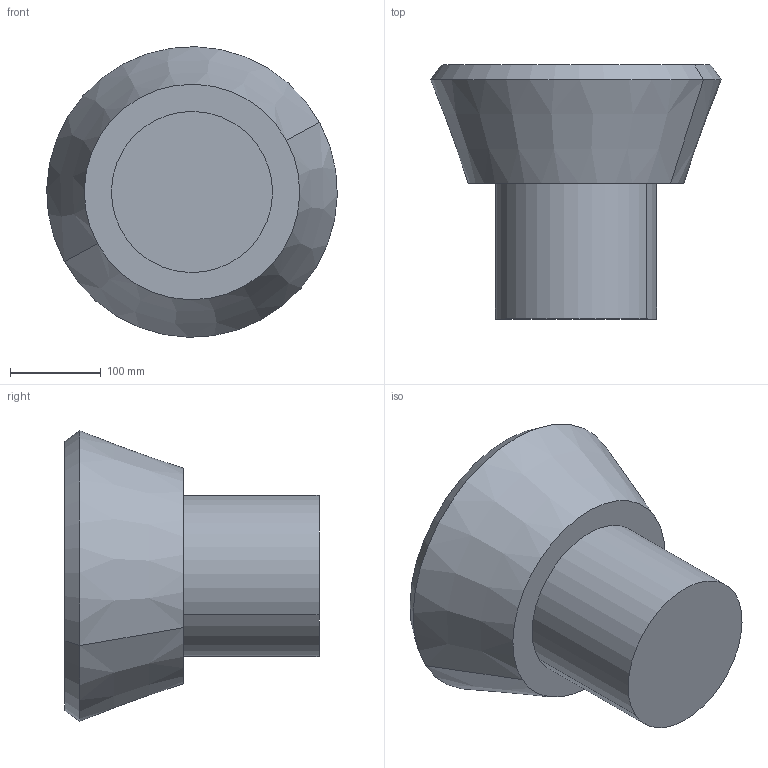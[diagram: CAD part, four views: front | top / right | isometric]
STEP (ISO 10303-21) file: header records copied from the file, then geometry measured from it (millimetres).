
FILE_DESCRIPTION(('CATIA V5 STEP Exchange'),'2;1');
FILE_NAME('C:\_Andres\UNIVERSIDAD\IQS\ASIGNATURAS\DAO\EXF\EXF-15161c\1original\Wand_Domenech_Ej09-optimiza_v29.stp','2016-03-04T21:55:32+00:00',('none'),('none'),'CATIA Version 5 Release 20 SP 1 (IN-10)','CATIA V5 STEP AP203','none');
FILE_SCHEMA(('CONFIG_CONTROL_DESIGN'));
Length unit declared in the file: millimetre
Products named in the file (1): Wand_Domenech_Ej09-optimiza_v29
Bounding box: 321.07 x 280.62 x 321.07 mm (x, y, z)
Volume: 12012922.9 mm3; surface area: 328844.4 mm2
Topology: 1 solids, 2 shells, 13 faces, 22 edges, 14 vertices
Faces by surface type: plane 5, cylinder 4, cone 4
Entity records: 324 total; most frequent: CARTESIAN_POINT 47, ORIENTED_EDGE 44, DIRECTION 42, AXIS2_PLACEMENT_3D 25, EDGE_CURVE 22, CIRCLE 14, EDGE_LOOP 14, VERTEX_POINT 14
